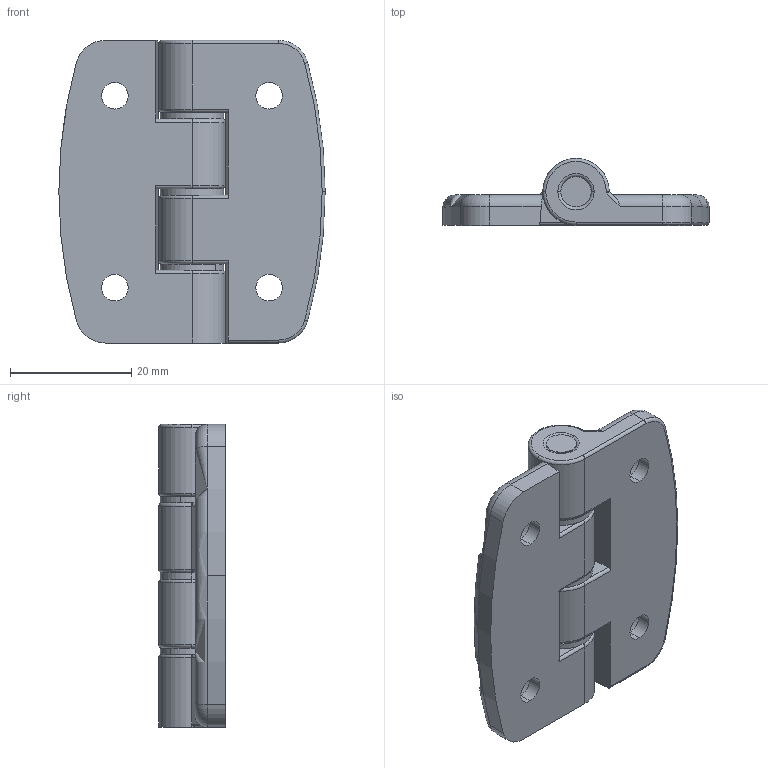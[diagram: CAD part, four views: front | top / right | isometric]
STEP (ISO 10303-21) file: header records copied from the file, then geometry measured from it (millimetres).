
FILE_DESCRIPTION (( 'STEP AP214' ), '1' );
FILE_NAME ('B25 KH-68.stp', '2012-03-20T05:35:13', ( '' ), ( '' ), 'SwSTEP 2.0', 'SolidWorks 2012', '' );
FILE_SCHEMA (( 'AUTOMOTIVE_DESIGN' ));
Length unit declared in the file: millimetre
Products named in the file (5): BODY B; BODY A; B25 KH-68; SHAFT; WASHER
Assembly tree (6 placements, depth 2):
  B25 KH-68
    BODY A
    BODY B
    SHAFT
    WASHER  x3
Bounding box: 44 x 11 x 50.1 mm (x, y, z)
Volume: 11564.4 mm3; surface area: 8328 mm2
Topology: 6 solids, 6 shells, 242 faces, 557 edges, 331 vertices
Faces by surface type: cylinder 131, plane 74, torus 35, cone 2
Entity records: 7154 total; most frequent: CARTESIAN_POINT 1620, DIRECTION 1225, ORIENTED_EDGE 1066, AXIS2_PLACEMENT_3D 546, EDGE_CURVE 533, VERTEX_POINT 315, CIRCLE 307, EDGE_LOOP 252
